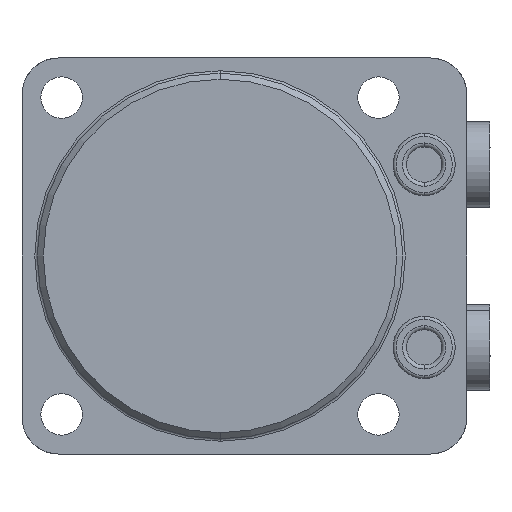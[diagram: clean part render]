
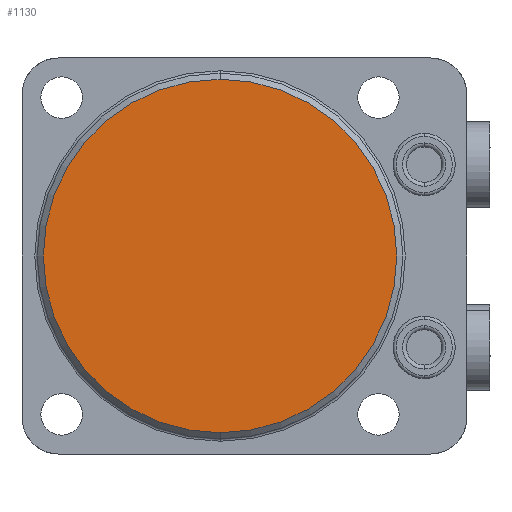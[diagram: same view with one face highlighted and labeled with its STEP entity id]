
A CAD part, front view. The second image highlights one B-rep face of the part: STEP entity #1130.
In plain terms, the highlighted planar face has unit normal (0, -1, 0).
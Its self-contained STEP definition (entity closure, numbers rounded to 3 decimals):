
#607=PLANE('',#3370);
#1130=ADVANCED_FACE('',(#1332),#607,.F.);
#1332=FACE_OUTER_BOUND('',#1500,.T.);
#1500=EDGE_LOOP('',(#1843,#1844));
#1843=ORIENTED_EDGE('',*,*,#2806,.T.);
#1844=ORIENTED_EDGE('',*,*,#2768,.T.);
#2519=VERTEX_POINT('',#4914);
#2520=VERTEX_POINT('',#4915);
#2768=EDGE_CURVE('',#2519,#2520,#3091,.T.);
#2806=EDGE_CURVE('',#2520,#2519,#3110,.T.);
#3091=CIRCLE('',#3341,29.);
#3110=CIRCLE('',#3369,29.);
#3341=AXIS2_PLACEMENT_3D('',#4913,#3882,#3883);
#3369=AXIS2_PLACEMENT_3D('',#4986,#3954,#3955);
#3370=AXIS2_PLACEMENT_3D('',#4987,#3956,#3957);
#3882=DIRECTION('',(0.,-1.,0.));
#3883=DIRECTION('',(0.,0.,1.));
#3954=DIRECTION('',(0.,-1.,0.));
#3955=DIRECTION('',(0.,0.,1.));
#3956=DIRECTION('',(0.,1.,0.));
#3957=DIRECTION('',(0.,0.,-1.));
#4913=CARTESIAN_POINT('',(0.,-57.,0.));
#4914=CARTESIAN_POINT('',(0.,-57.,-29.));
#4915=CARTESIAN_POINT('',(0.,-57.,29.));
#4986=CARTESIAN_POINT('',(0.,-57.,0.));
#4987=CARTESIAN_POINT('',(0.,-57.,0.));
